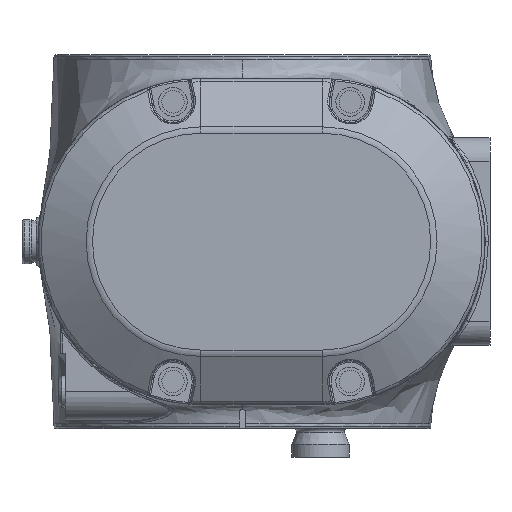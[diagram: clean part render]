
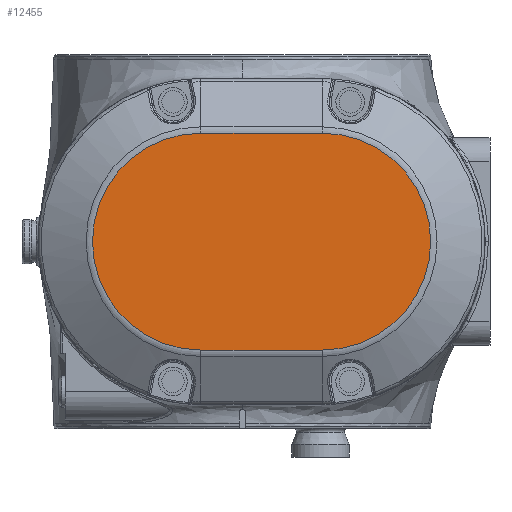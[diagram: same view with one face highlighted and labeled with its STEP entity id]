
A CAD part, left-side view. The second image highlights one B-rep face of the part: STEP entity #12455.
In plain terms, the highlighted planar face has unit normal (-1, 0, 0).
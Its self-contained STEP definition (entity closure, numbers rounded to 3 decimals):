
#1157 = VECTOR ( 'NONE', #8915, 1000. ) ;
#1925 = EDGE_LOOP ( 'NONE', ( #11422, #4373, #13016, #20736 ) ) ;
#2320 = DIRECTION ( 'NONE',  ( 0., 1., 0. ) ) ;
#3188 = EDGE_CURVE ( 'NONE', #14856, #25108, #9301, .T. ) ;
#3199 = CARTESIAN_POINT ( 'NONE',  ( -59., -33.928, 865. ) ) ;
#3290 = DIRECTION ( 'NONE',  ( 0., 1., 0. ) ) ;
#3565 = CARTESIAN_POINT ( 'NONE',  ( -59., 33.928, 865. ) ) ;
#4373 = ORIENTED_EDGE ( 'NONE', *, *, #10706, .T. ) ;
#7288 = DIRECTION ( 'NONE',  ( 0., 0., 1. ) ) ;
#8325 = VERTEX_POINT ( 'NONE', #20254 ) ;
#8791 = CARTESIAN_POINT ( 'NONE',  ( -59., 0., 827. ) ) ;
#8915 = DIRECTION ( 'NONE',  ( 0., 0., -1. ) ) ;
#9301 = LINE ( 'NONE', #13383, #1157 ) ;
#10537 = AXIS2_PLACEMENT_3D ( 'NONE', #10875, #20777, #2320 ) ;
#10706 = EDGE_CURVE ( 'NONE', #8325, #18530, #25356, .T. ) ;
#10875 = CARTESIAN_POINT ( 'NONE',  ( -59., 0., 865. ) ) ;
#11267 = VECTOR ( 'NONE', #7288, 1000. ) ;
#11422 = ORIENTED_EDGE ( 'NONE', *, *, #21631, .T. ) ;
#11599 = CARTESIAN_POINT ( 'NONE',  ( -59., 0., 865. ) ) ;
#12455 = ADVANCED_FACE ( 'NONE', ( #21762 ), #21358, .F. ) ;
#13016 = ORIENTED_EDGE ( 'NONE', *, *, #13203, .T. ) ;
#13203 = EDGE_CURVE ( 'NONE', #18530, #14856, #18939, .T. ) ;
#13383 = CARTESIAN_POINT ( 'NONE',  ( -59., 33.928, 827. ) ) ;
#14856 = VERTEX_POINT ( 'NONE', #3565 ) ;
#16333 = CARTESIAN_POINT ( 'NONE',  ( -59., -33.928, 865. ) ) ;
#18530 = VERTEX_POINT ( 'NONE', #16333 ) ;
#18939 = CIRCLE ( 'NONE', #10537, 33.928 ) ;
#19644 = DIRECTION ( 'NONE',  ( 1., 0., 0. ) ) ;
#19965 = AXIS2_PLACEMENT_3D ( 'NONE', #8791, #23301, #20796 ) ;
#20119 = AXIS2_PLACEMENT_3D ( 'NONE', #11599, #19644, #3290 ) ;
#20254 = CARTESIAN_POINT ( 'NONE',  ( -59., -33.928, 827. ) ) ;
#20378 = CIRCLE ( 'NONE', #19965, 33.928 ) ;
#20736 = ORIENTED_EDGE ( 'NONE', *, *, #3188, .T. ) ;
#20777 = DIRECTION ( 'NONE',  ( -1., 0., 0. ) ) ;
#20796 = DIRECTION ( 'NONE',  ( 0., 1., 0. ) ) ;
#21358 = PLANE ( 'NONE',  #20119 ) ;
#21631 = EDGE_CURVE ( 'NONE', #25108, #8325, #20378, .T. ) ;
#21762 = FACE_OUTER_BOUND ( 'NONE', #1925, .T. ) ;
#21937 = CARTESIAN_POINT ( 'NONE',  ( -59., 33.928, 827. ) ) ;
#23301 = DIRECTION ( 'NONE',  ( -1., 0., 0. ) ) ;
#25108 = VERTEX_POINT ( 'NONE', #21937 ) ;
#25356 = LINE ( 'NONE', #3199, #11267 ) ;
